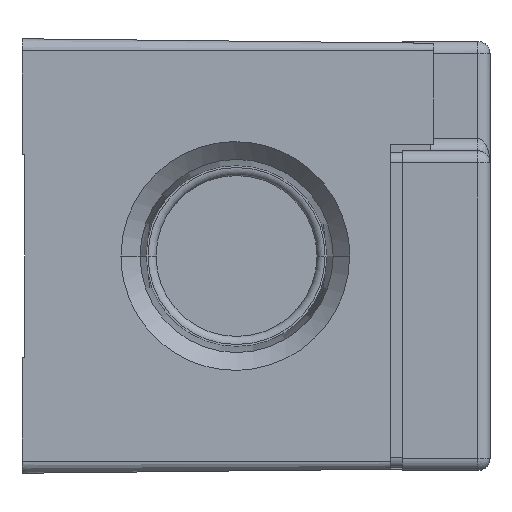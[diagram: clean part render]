
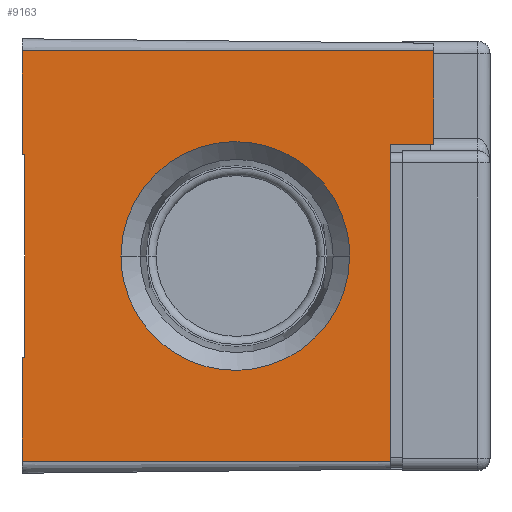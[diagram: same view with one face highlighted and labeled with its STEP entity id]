
A CAD part, front view. The second image highlights one B-rep face of the part: STEP entity #9163.
In plain terms, the highlighted planar face has unit normal (0.011, -1, 0).
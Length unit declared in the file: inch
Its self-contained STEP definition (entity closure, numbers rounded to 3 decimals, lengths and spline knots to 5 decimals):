
#1792=DIRECTION('',(0.,0.,1.));
#1793=VECTOR('',#1792,0.756);
#1794=CARTESIAN_POINT('',(-0.835,-3.20389,-0.378));
#1795=LINE('',#1794,#1793);
#1796=DIRECTION('',(1.,0.011,0.));
#1797=VECTOR('',#1796,0.01);
#1798=CARTESIAN_POINT('',(-0.845,-3.204,0.378));
#1799=LINE('',#1798,#1797);
#1800=DIRECTION('',(0.,0.,1.));
#1801=VECTOR('',#1800,0.387);
#1802=CARTESIAN_POINT('',(-0.845,-3.204,0.378));
#1803=LINE('',#1802,#1801);
#1804=DIRECTION('',(0.,0.,1.));
#1805=VECTOR('',#1804,0.348);
#1806=CARTESIAN_POINT('',(0.69,-3.18739,0.417));
#1807=LINE('',#1806,#1805);
#1808=DIRECTION('',(-1.,-0.011,0.));
#1809=VECTOR('',#1808,0.16001);
#1810=CARTESIAN_POINT('',(0.69,-3.18739,0.417));
#1811=LINE('',#1810,#1809);
#1812=DIRECTION('',(0.,0.,1.));
#1813=VECTOR('',#1812,0.387);
#1814=CARTESIAN_POINT('',(-0.845,-3.204,-0.765));
#1815=LINE('',#1814,#1813);
#1816=DIRECTION('',(1.,0.011,0.));
#1817=VECTOR('',#1816,0.01);
#1818=CARTESIAN_POINT('',(-0.845,-3.204,-0.378));
#1819=LINE('',#1818,#1817);
#1820=CARTESIAN_POINT('',(0.37678,-3.19078,0.));
#1821=CARTESIAN_POINT('',(0.37678,-3.19078,
-0.02512));
#1822=CARTESIAN_POINT('',(0.37232,-3.19083,
-0.07725));
#1823=CARTESIAN_POINT('',(0.34969,-3.19107,
-0.15743));
#1824=CARTESIAN_POINT('',(0.30997,-3.1915,
-0.23469));
#1825=CARTESIAN_POINT('',(0.25407,-3.19211,
-0.30367));
#1826=CARTESIAN_POINT('',(0.19659,-3.19273,
-0.35024));
#1827=CARTESIAN_POINT('',(0.14646,-3.19327,
-0.37943));
#1828=CARTESIAN_POINT('',(0.10746,-3.19369,
-0.39714));
#1829=CARTESIAN_POINT('',(0.06773,-3.19412,
-0.4106));
#1830=CARTESIAN_POINT('',(0.03453,-3.19448,
-0.41836));
#1831=CARTESIAN_POINT('',(0.00822,-3.19477,
-0.42258));
#1832=CARTESIAN_POINT('',(-0.01134,-3.19498,
-0.4248));
#1833=CARTESIAN_POINT('',(-0.02743,-3.19515,
-0.42587));
#1834=CARTESIAN_POINT('',(-0.04017,-3.19529,
-0.4263));
#1835=CARTESIAN_POINT('',(-0.04961,-3.19539,
-0.4264));
#1836=CARTESIAN_POINT('',(-0.05906,-3.19549,
-0.4263));
#1837=CARTESIAN_POINT('',(-0.07179,-3.19563,
-0.42587));
#1838=CARTESIAN_POINT('',(-0.08789,-3.19581,
-0.4248));
#1839=CARTESIAN_POINT('',(-0.10744,-3.19602,
-0.42258));
#1840=CARTESIAN_POINT('',(-0.13376,-3.1963,
-0.41836));
#1841=CARTESIAN_POINT('',(-0.16696,-3.19666,
-0.4106));
#1842=CARTESIAN_POINT('',(-0.20669,-3.19709,
-0.39714));
#1843=CARTESIAN_POINT('',(-0.24569,-3.19751,
-0.37943));
#1844=CARTESIAN_POINT('',(-0.29582,-3.19806,
-0.35024));
#1845=CARTESIAN_POINT('',(-0.3533,-3.19868,
-0.30367));
#1846=CARTESIAN_POINT('',(-0.4092,-3.19928,
-0.23469));
#1847=CARTESIAN_POINT('',(-0.44892,-3.19971,
-0.15743));
#1848=CARTESIAN_POINT('',(-0.47154,-3.19996,
-0.07725));
#1849=CARTESIAN_POINT('',(-0.47601,-3.20001,
-0.02512));
#1850=CARTESIAN_POINT('',(-0.47601,-3.20001,0.));
#1852=CARTESIAN_POINT('',(-0.47601,-3.20001,0.));
#1853=CARTESIAN_POINT('',(-0.47601,-3.20001,
0.02512));
#1854=CARTESIAN_POINT('',(-0.47154,-3.19996,
0.07725));
#1855=CARTESIAN_POINT('',(-0.44892,-3.19971,
0.15743));
#1856=CARTESIAN_POINT('',(-0.4092,-3.19928,
0.23469));
#1857=CARTESIAN_POINT('',(-0.3533,-3.19868,
0.30367));
#1858=CARTESIAN_POINT('',(-0.29582,-3.19806,
0.35024));
#1859=CARTESIAN_POINT('',(-0.24569,-3.19751,
0.37943));
#1860=CARTESIAN_POINT('',(-0.20669,-3.19709,
0.39714));
#1861=CARTESIAN_POINT('',(-0.16696,-3.19666,
0.4106));
#1862=CARTESIAN_POINT('',(-0.13376,-3.1963,
0.41836));
#1863=CARTESIAN_POINT('',(-0.10744,-3.19602,
0.42258));
#1864=CARTESIAN_POINT('',(-0.08789,-3.19581,
0.4248));
#1865=CARTESIAN_POINT('',(-0.07179,-3.19563,
0.42587));
#1866=CARTESIAN_POINT('',(-0.05906,-3.19549,
0.4263));
#1867=CARTESIAN_POINT('',(-0.04961,-3.19539,
0.4264));
#1868=CARTESIAN_POINT('',(-0.04017,-3.19529,
0.4263));
#1869=CARTESIAN_POINT('',(-0.02743,-3.19515,
0.42587));
#1870=CARTESIAN_POINT('',(-0.01134,-3.19498,
0.4248));
#1871=CARTESIAN_POINT('',(0.00822,-3.19477,
0.42258));
#1872=CARTESIAN_POINT('',(0.03453,-3.19448,
0.41836));
#1873=CARTESIAN_POINT('',(0.06773,-3.19412,
0.4106));
#1874=CARTESIAN_POINT('',(0.10746,-3.19369,
0.39714));
#1875=CARTESIAN_POINT('',(0.14646,-3.19327,
0.37943));
#1876=CARTESIAN_POINT('',(0.19659,-3.19273,
0.35024));
#1877=CARTESIAN_POINT('',(0.25407,-3.19211,
0.30367));
#1878=CARTESIAN_POINT('',(0.30997,-3.1915,
0.23469));
#1879=CARTESIAN_POINT('',(0.34969,-3.19107,
0.15743));
#1880=CARTESIAN_POINT('',(0.37232,-3.19083,
0.07725));
#1881=CARTESIAN_POINT('',(0.37678,-3.19078,
0.02512));
#1882=CARTESIAN_POINT('',(0.37678,-3.19078,0.));
#2197=DIRECTION('',(0.,0.,1.));
#2198=VECTOR('',#2197,1.182);
#2199=CARTESIAN_POINT('',(0.53,-3.18912,-0.765));
#2200=LINE('',#2199,#2198);
#3965=DIRECTION('',(1.,0.011,0.));
#3966=VECTOR('',#3965,1.53509);
#3967=CARTESIAN_POINT('',(-0.845,-3.204,0.765));
#3968=LINE('',#3967,#3966);
#4393=DIRECTION('',(1.,0.011,0.));
#4394=VECTOR('',#4393,1.37508);
#4395=CARTESIAN_POINT('',(-0.845,-3.204,-0.765));
#4396=LINE('',#4395,#4394);
#6281=CARTESIAN_POINT('',(0.69,-3.18739,0.417));
#6282=CARTESIAN_POINT('',(0.53,-3.18912,0.417));
#6283=VERTEX_POINT('',#6281);
#6284=VERTEX_POINT('',#6282);
#6289=CARTESIAN_POINT('',(-0.845,-3.204,0.765));
#6290=CARTESIAN_POINT('',(0.69,-3.18739,0.765));
#6291=VERTEX_POINT('',#6289);
#6292=VERTEX_POINT('',#6290);
#6297=CARTESIAN_POINT('',(-0.845,-3.204,-0.765));
#6298=CARTESIAN_POINT('',(0.53,-3.18912,-0.765));
#6299=VERTEX_POINT('',#6297);
#6300=VERTEX_POINT('',#6298);
#6317=CARTESIAN_POINT('',(-0.835,-3.20389,-0.378));
#6318=CARTESIAN_POINT('',(-0.835,-3.20389,0.378));
#6319=VERTEX_POINT('',#6317);
#6320=VERTEX_POINT('',#6318);
#6321=CARTESIAN_POINT('',(-0.845,-3.204,-0.378));
#6322=VERTEX_POINT('',#6321);
#6323=CARTESIAN_POINT('',(-0.845,-3.204,0.378));
#6324=VERTEX_POINT('',#6323);
#6325=VERTEX_POINT('',#1820);
#6326=VERTEX_POINT('',#1850);
#9133=CARTESIAN_POINT('',(-0.845,-3.204,-1.81479));
#9134=DIRECTION('',(0.011,-1.,0.));
#9135=DIRECTION('',(0.,0.,1.));
#9136=AXIS2_PLACEMENT_3D('',#9133,#9134,#9135);
#9137=PLANE('',#9136);
#9138=ORIENTED_EDGE('',*,*,#9032,.T.);
#9140=ORIENTED_EDGE('',*,*,#9139,.F.);
#9142=ORIENTED_EDGE('',*,*,#9141,.T.);
#9144=ORIENTED_EDGE('',*,*,#9143,.T.);
#9146=ORIENTED_EDGE('',*,*,#9145,.F.);
#9148=ORIENTED_EDGE('',*,*,#9147,.T.);
#9150=ORIENTED_EDGE('',*,*,#9149,.F.);
#9152=ORIENTED_EDGE('',*,*,#9151,.F.);
#9153=ORIENTED_EDGE('',*,*,#9106,.T.);
#9154=ORIENTED_EDGE('',*,*,#9128,.T.);
#9155=EDGE_LOOP('',(#9138,#9140,#9142,#9144,#9146,#9148,#9150,#9152,#9153,
#9154));
#9156=FACE_OUTER_BOUND('',#9155,.F.);
#9158=ORIENTED_EDGE('',*,*,#9157,.F.);
#9160=ORIENTED_EDGE('',*,*,#9159,.F.);
#9161=EDGE_LOOP('',(#9158,#9160));
#9162=FACE_BOUND('',#9161,.F.);
#9163=ADVANCED_FACE('',(#9156,#9162),#9137,.T.);
#1851=B_SPLINE_CURVE_WITH_KNOTS('',3,(#1820,#1821,#1822,#1823,#1824,#1825,#1826,
#1827,#1828,#1829,#1830,#1831,#1832,#1833,#1834,#1835,#1836,#1837,#1838,#1839,
#1840,#1841,#1842,#1843,#1844,#1845,#1846,#1847,#1848,#1849,#1850),
.UNSPECIFIED.,.F.,.F.,(4,1,1,1,1,1,1,1,1,1,1,1,1,1,1,1,1,1,1,1,1,1,1,1,1,1,1,1,
4),(0.,0.0625,0.125,0.1875,0.25,0.3125,0.34375,0.375,0.40625,
0.4375,0.45313,0.46875,0.48438,0.49219,0.5,0.50781,
0.51563,0.53125,0.54688,0.5625,0.59375,0.625,0.65625,0.6875,
0.75,0.8125,0.875,0.9375,1.),.UNSPECIFIED.);
#1883=B_SPLINE_CURVE_WITH_KNOTS('',3,(#1852,#1853,#1854,#1855,#1856,#1857,#1858,
#1859,#1860,#1861,#1862,#1863,#1864,#1865,#1866,#1867,#1868,#1869,#1870,#1871,
#1872,#1873,#1874,#1875,#1876,#1877,#1878,#1879,#1880,#1881,#1882),
.UNSPECIFIED.,.F.,.F.,(4,1,1,1,1,1,1,1,1,1,1,1,1,1,1,1,1,1,1,1,1,1,1,1,1,1,1,1,
4),(0.,0.0625,0.125,0.1875,0.25,0.3125,0.34375,0.375,0.40625,
0.4375,0.45313,0.46875,0.48438,0.49219,0.5,0.50781,
0.51563,0.53125,0.54688,0.5625,0.59375,0.625,0.65625,0.6875,
0.75,0.8125,0.875,0.9375,1.),.UNSPECIFIED.);
#9032=EDGE_CURVE('',#6319,#6320,#1795,.T.);
#9106=EDGE_CURVE('',#6299,#6322,#1815,.T.);
#9128=EDGE_CURVE('',#6322,#6319,#1819,.T.);
#9139=EDGE_CURVE('',#6324,#6320,#1799,.T.);
#9141=EDGE_CURVE('',#6324,#6291,#1803,.T.);
#9143=EDGE_CURVE('',#6291,#6292,#3968,.T.);
#9145=EDGE_CURVE('',#6283,#6292,#1807,.T.);
#9147=EDGE_CURVE('',#6283,#6284,#1811,.T.);
#9149=EDGE_CURVE('',#6300,#6284,#2200,.T.);
#9151=EDGE_CURVE('',#6299,#6300,#4396,.T.);
#9157=EDGE_CURVE('',#6325,#6326,#1851,.T.);
#9159=EDGE_CURVE('',#6326,#6325,#1883,.T.);
